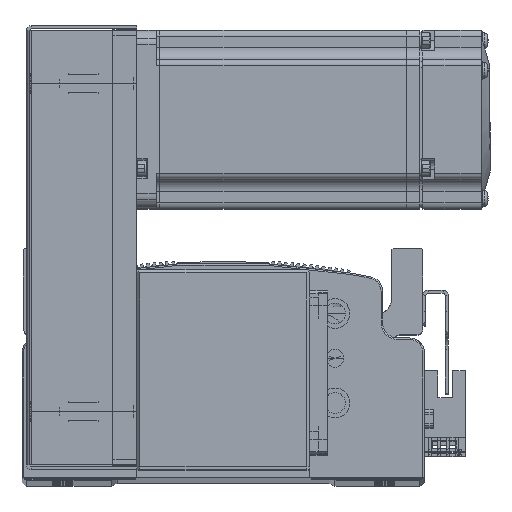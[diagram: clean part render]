
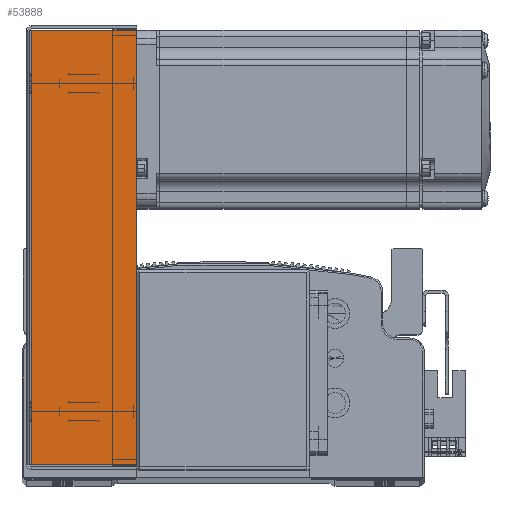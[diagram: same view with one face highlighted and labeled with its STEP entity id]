
A CAD part, top view. The second image highlights one B-rep face of the part: STEP entity #53888.
In plain terms, the highlighted planar face has unit normal (0, 0, 1).
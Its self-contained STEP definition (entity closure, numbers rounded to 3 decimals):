
#15303 = CARTESIAN_POINT ( 'NONE',  ( 0., 0., 34.5 ) ) ;
#15308 = DIRECTION ( 'NONE',  ( 0., 0., -1. ) ) ;
#15315 = PLANE ( 'NONE',  #87558 ) ;
#15330 = DIRECTION ( 'NONE',  ( -1., 0., 0. ) ) ;
#24514 = CARTESIAN_POINT ( 'NONE',  ( 72.793, 36., 34.5 ) ) ;
#24674 = CARTESIAN_POINT ( 'NONE',  ( -72.793, 36., 34.5 ) ) ;
#24841 = CARTESIAN_POINT ( 'NONE',  ( -72.793, 0.737, 34.5 ) ) ;
#25143 = CARTESIAN_POINT ( 'NONE',  ( 72.793, 0.737, 34.5 ) ) ;
#39436 = EDGE_CURVE ( 'NONE', #62016, #61986, #49163, .T. ) ;
#39573 = EDGE_CURVE ( 'NONE', #61986, #61945, #49203, .T. ) ;
#39614 = EDGE_CURVE ( 'NONE', #62016, #61922, #49209, .T. ) ;
#39671 = EDGE_CURVE ( 'NONE', #61922, #61945, #48037, .T. ) ;
#48037 = LINE ( 'NONE', #70782, #48076 ) ;
#48076 = VECTOR ( 'NONE', #70778, 1000. ) ;
#49142 = VECTOR ( 'NONE', #70464, 1000. ) ;
#49163 = LINE ( 'NONE', #70484, #49142 ) ;
#49189 = VECTOR ( 'NONE', #70730, 1000. ) ;
#49203 = LINE ( 'NONE', #70598, #49227 ) ;
#49209 = LINE ( 'NONE', #70669, #49189 ) ;
#49227 = VECTOR ( 'NONE', #70714, 1000. ) ;
#53888 = ADVANCED_FACE ( 'NONE', ( #60236 ), #15315, .F. ) ;
#55439 = EDGE_LOOP ( 'NONE', ( #76550, #76530, #76529, #76537 ) ) ;
#60236 = FACE_OUTER_BOUND ( 'NONE', #55439, .T. ) ;
#61922 = VERTEX_POINT ( 'NONE', #24514 ) ;
#61945 = VERTEX_POINT ( 'NONE', #24674 ) ;
#61986 = VERTEX_POINT ( 'NONE', #24841 ) ;
#62016 = VERTEX_POINT ( 'NONE', #25143 ) ;
#70464 = DIRECTION ( 'NONE',  ( -1., 0., 0. ) ) ;
#70484 = CARTESIAN_POINT ( 'NONE',  ( -74.5, 0.737, 34.5 ) ) ;
#70598 = CARTESIAN_POINT ( 'NONE',  ( -72.793, 0., 34.5 ) ) ;
#70669 = CARTESIAN_POINT ( 'NONE',  ( 72.793, 0., 34.5 ) ) ;
#70714 = DIRECTION ( 'NONE',  ( 0., 1., 0. ) ) ;
#70730 = DIRECTION ( 'NONE',  ( 0., 1., 0. ) ) ;
#70778 = DIRECTION ( 'NONE',  ( -1., 0., 0. ) ) ;
#70782 = CARTESIAN_POINT ( 'NONE',  ( 0., 36., 34.5 ) ) ;
#76529 = ORIENTED_EDGE ( 'NONE', *, *, #39671, .T. ) ;
#76530 = ORIENTED_EDGE ( 'NONE', *, *, #39614, .T. ) ;
#76537 = ORIENTED_EDGE ( 'NONE', *, *, #39573, .F. ) ;
#76550 = ORIENTED_EDGE ( 'NONE', *, *, #39436, .F. ) ;
#87558 = AXIS2_PLACEMENT_3D ( 'NONE', #15303, #15308, #15330 ) ;
